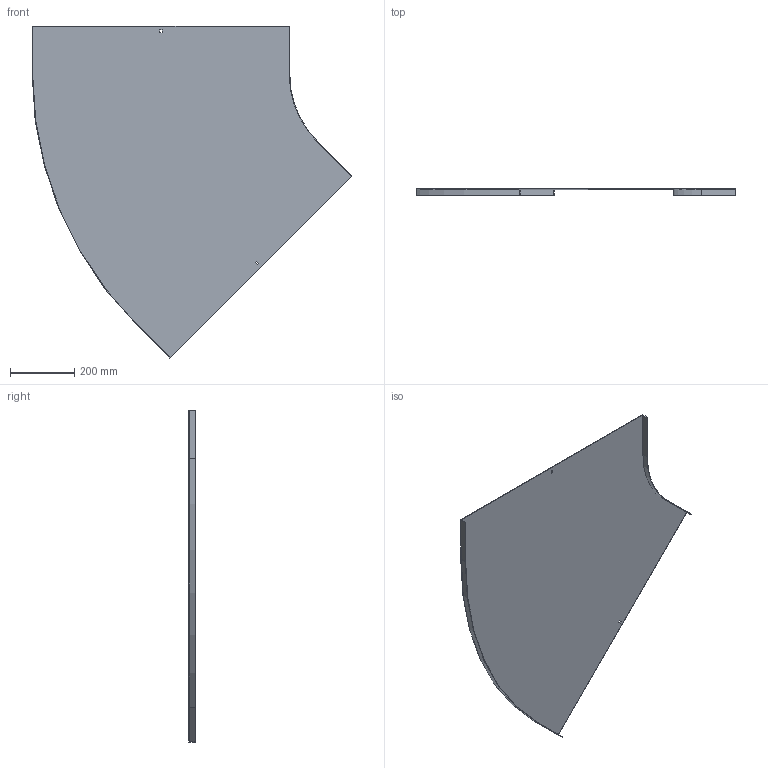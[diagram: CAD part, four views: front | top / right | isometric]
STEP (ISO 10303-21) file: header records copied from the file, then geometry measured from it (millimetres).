
FILE_DESCRIPTION (( 'STEP AP214' ), '1' );
FILE_NAME ('A2_11N3R800.step', '2025-02-21T10:50:49', ( '' ), ( '' ), 'SwSTEP 2.0', 'SolidWorks 2023', '' );
FILE_SCHEMA (( 'AUTOMOTIVE_DESIGN' ));
Length unit declared in the file: millimetre
Products named in the file (1): A2_11N3R800
Bounding box: 996.49 x 20 x 1034.94 mm (x, y, z)
Volume: 1070545.7 mm3; surface area: 1432556.6 mm2
Topology: 1 solids, 1 shells, 26 faces, 72 edges, 48 vertices
Faces by surface type: plane 22, cylinder 4
Entity records: 855 total; most frequent: CARTESIAN_POINT 147, ORIENTED_EDGE 144, DIRECTION 134, EDGE_CURVE 72, LINE 64, VECTOR 64, VERTEX_POINT 48, AXIS2_PLACEMENT_3D 35
